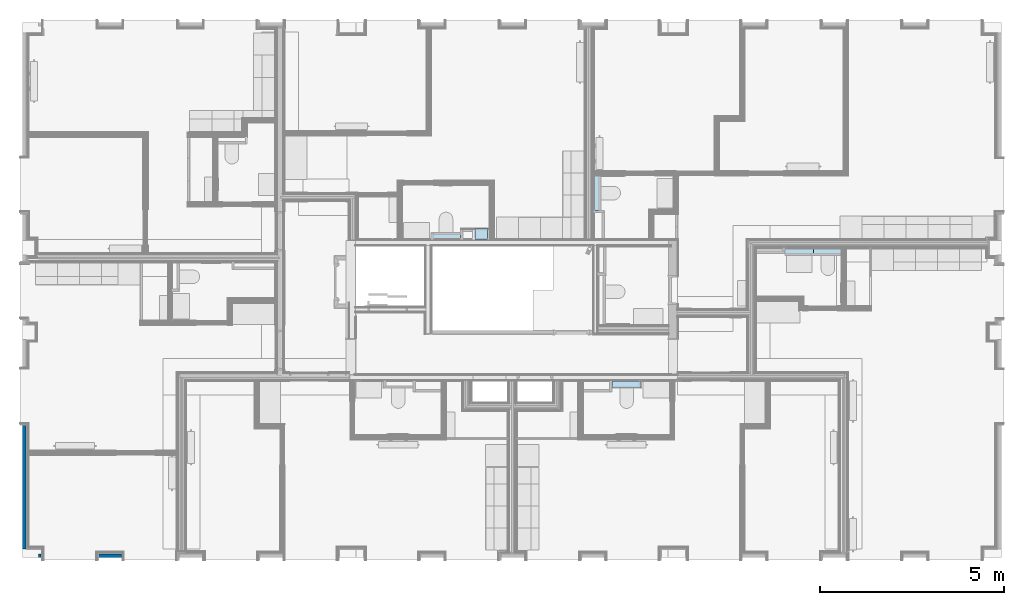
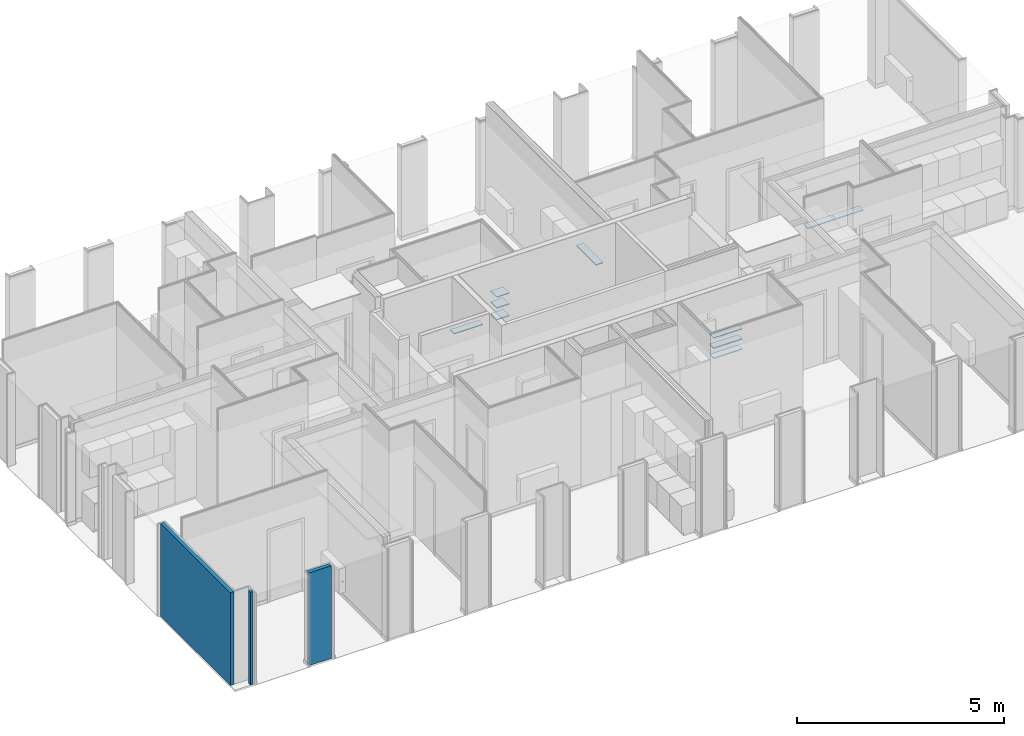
# One storey, part 2 of 65: 10 slabs, 3 walls.
"""IFC2X3 building model written with IfcOpenShell, lengths in metres."""

from ifc_helpers import new_model, entity, si_unit, converted_unit, derived_unit, money_unit, direction, frame, frame_2d, origin_with_axes, place, context, subcontext, project, spatial, rectangle, extrude, faceted_brep, material, layer, layer_set, layer_usage, type_object, element, save


model = new_model("IFC2X3")

# Units and contexts
model_context = context("Model", 3, precision=1e-05, world=origin_with_axes(), true_north=direction((0.0, 1.0)))
body_context = subcontext(model_context, "Body", "Model", "MODEL_VIEW", scale=1.0)
ifc_project = project(units=[si_unit("LENGTHUNIT", "METRE"), si_unit("AREAUNIT", "SQUARE_METRE"), si_unit("VOLUMEUNIT", "CUBIC_METRE"), si_unit("ABSORBEDDOSEUNIT", "GRAY"), si_unit("AMOUNTOFSUBSTANCEUNIT", "MOLE"), si_unit("DOSEEQUIVALENTUNIT", "SIEVERT"), si_unit("ELECTRICCAPACITANCEUNIT", "FARAD"), si_unit("ELECTRICCHARGEUNIT", "COULOMB"), si_unit("ELECTRICCONDUCTANCEUNIT", "SIEMENS"), si_unit("ELECTRICCURRENTUNIT", "AMPERE"), si_unit("ELECTRICRESISTANCEUNIT", "OHM"), si_unit("ELECTRICVOLTAGEUNIT", "VOLT"), si_unit("ENERGYUNIT", "JOULE"), si_unit("FORCEUNIT", "NEWTON"), si_unit("FREQUENCYUNIT", "HERTZ"), si_unit("ILLUMINANCEUNIT", "LUX"), si_unit("INDUCTANCEUNIT", "HENRY"), si_unit("LUMINOUSFLUXUNIT", "LUMEN"), si_unit("LUMINOUSINTENSITYUNIT", "CANDELA"), si_unit("MAGNETICFLUXDENSITYUNIT", "TESLA"), si_unit("MAGNETICFLUXUNIT", "WEBER"), si_unit("MASSUNIT", "GRAM"), converted_unit("PLANEANGLEUNIT", "degree", entity("IfcReal", 0.0174532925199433), si_unit("PLANEANGLEUNIT", "RADIAN"), dimensions=[0, 0, 0, 0, 0, 0, 0]), si_unit("POWERUNIT", "WATT"), si_unit("PRESSUREUNIT", "PASCAL"), si_unit("RADIOACTIVITYUNIT", "BECQUEREL"), si_unit("SOLIDANGLEUNIT", "STERADIAN"), si_unit("THERMODYNAMICTEMPERATUREUNIT", "KELVIN"), si_unit("TIMEUNIT", "SECOND"), derived_unit("ACCELERATIONUNIT", [(si_unit("LENGTHUNIT", "METRE"), 1), (si_unit("TIMEUNIT", "SECOND"), -2)]), derived_unit("ANGULARVELOCITYUNIT", [(converted_unit("PLANEANGLEUNIT", "degree", entity("IfcReal", 0.0174532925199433), si_unit("PLANEANGLEUNIT", "RADIAN"), dimensions=[0, 0, 0, 0, 0, 0, 0]), 1), (si_unit("TIMEUNIT", "SECOND"), -1)]), derived_unit("CURVATUREUNIT", [(converted_unit("PLANEANGLEUNIT", "degree", entity("IfcReal", 0.0174532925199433), si_unit("PLANEANGLEUNIT", "RADIAN"), dimensions=[0, 0, 0, 0, 0, 0, 0]), 1), (si_unit("LENGTHUNIT", "METRE"), -1)]), derived_unit("DYNAMICVISCOSITYUNIT", [(si_unit("PRESSUREUNIT", "PASCAL"), 1), (si_unit("TIMEUNIT", "SECOND"), 1)]), derived_unit("HEATFLUXDENSITYUNIT", [(si_unit("POWERUNIT", "WATT"), 1), (si_unit("LENGTHUNIT", "METRE"), -2)]), derived_unit("HEATINGVALUEUNIT", [(si_unit("ENERGYUNIT", "JOULE"), 1), (si_unit("MASSUNIT", "GRAM"), -1)]), derived_unit("INTEGERCOUNTRATEUNIT", [(si_unit("TIMEUNIT", "SECOND"), -1)]), derived_unit("IONCONCENTRATIONUNIT", [(si_unit("MASSUNIT", "GRAM"), 1), (si_unit("VOLUMEUNIT", "CUBIC_METRE"), -1)]), derived_unit("ISOTHERMALMOISTURECAPACITYUNIT", [(si_unit("VOLUMEUNIT", "CUBIC_METRE"), 1), (si_unit("MASSUNIT", "GRAM"), -1)]), derived_unit("KINEMATICVISCOSITYUNIT", [(si_unit("AREAUNIT", "SQUARE_METRE"), 1), (si_unit("TIMEUNIT", "SECOND"), -1)]), derived_unit("LINEARFORCEUNIT", [(si_unit("FORCEUNIT", "NEWTON"), 1), (si_unit("LENGTHUNIT", "METRE"), -1)]), derived_unit("LINEARMOMENTUNIT", [(si_unit("FORCEUNIT", "NEWTON"), 1), (si_unit("LENGTHUNIT", "METRE"), -1)]), derived_unit("LINEARSTIFFNESSUNIT", [(si_unit("FORCEUNIT", "NEWTON"), 1), (si_unit("LENGTHUNIT", "METRE"), -1)]), derived_unit("LINEARVELOCITYUNIT", [(si_unit("LENGTHUNIT", "METRE"), 1), (si_unit("TIMEUNIT", "SECOND"), -1)]), derived_unit("LUMINOUSINTENSITYDISTRIBUTIONUNIT", [(si_unit("LUMINOUSINTENSITYUNIT", "CANDELA"), 1), (si_unit("LUMINOUSFLUXUNIT", "LUMEN"), -1)]), derived_unit("MASSDENSITYUNIT", [(si_unit("MASSUNIT", "GRAM"), 1), (si_unit("VOLUMEUNIT", "CUBIC_METRE"), -1)]), derived_unit("MASSFLOWRATEUNIT", [(si_unit("MASSUNIT", "GRAM"), 1), (si_unit("TIMEUNIT", "SECOND"), -1)]), derived_unit("MASSPERLENGTHUNIT", [(si_unit("MASSUNIT", "GRAM"), 1), (si_unit("LENGTHUNIT", "METRE"), -1)]), derived_unit("MODULUSOFELASTICITYUNIT", [(si_unit("FORCEUNIT", "NEWTON"), 1), (si_unit("AREAUNIT", "SQUARE_METRE"), -1)]), derived_unit("MODULUSOFLINEARSUBGRADEREACTIONUNIT", [(si_unit("FORCEUNIT", "NEWTON"), 1), (si_unit("LENGTHUNIT", "METRE"), -2)]), derived_unit("MODULUSOFROTATIONALSUBGRADEREACTIONUNIT", [(si_unit("FORCEUNIT", "NEWTON"), 1), (si_unit("LENGTHUNIT", "METRE"), 1)]), derived_unit("MODULUSOFSUBGRADEREACTIONUNIT", [(si_unit("FORCEUNIT", "NEWTON"), 1), (si_unit("VOLUMEUNIT", "CUBIC_METRE"), -1)]), derived_unit("MOISTUREDIFFUSIVITYUNIT", [(si_unit("VOLUMEUNIT", "CUBIC_METRE"), 1), (si_unit("TIMEUNIT", "SECOND"), -1)]), derived_unit("MOLECULARWEIGHTUNIT", [(si_unit("MASSUNIT", "GRAM"), 1), (si_unit("AMOUNTOFSUBSTANCEUNIT", "MOLE"), -1)]), derived_unit("PLANARFORCEUNIT", [(si_unit("FORCEUNIT", "NEWTON"), 1), (si_unit("LENGTHUNIT", "METRE"), -2)]), derived_unit("ROTATIONALFREQUENCYUNIT", [(si_unit("TIMEUNIT", "SECOND"), -1)]), derived_unit("ROTATIONALMASSUNIT", [(si_unit("MASSUNIT", "GRAM"), 1), (si_unit("LENGTHUNIT", "METRE"), 2)]), derived_unit("ROTATIONALSTIFFNESSUNIT", [(si_unit("FORCEUNIT", "NEWTON"), 1), (si_unit("LENGTHUNIT", "METRE"), 1), (converted_unit("PLANEANGLEUNIT", "degree", entity("IfcReal", 0.0174532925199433), si_unit("PLANEANGLEUNIT", "RADIAN"), dimensions=[0, 0, 0, 0, 0, 0, 0]), -1)]), derived_unit("SECTIONAREAINTEGRALUNIT", [(si_unit("LENGTHUNIT", "METRE"), 5)]), derived_unit("SECTIONMODULUSUNIT", [(si_unit("LENGTHUNIT", "METRE"), 3)]), derived_unit("SHEARMODULUSUNIT", [(si_unit("FORCEUNIT", "NEWTON"), 1), (si_unit("AREAUNIT", "SQUARE_METRE"), -1)]), derived_unit("SOUNDPOWERUNIT", [(si_unit("ENERGYUNIT", "JOULE"), 1), (si_unit("TIMEUNIT", "SECOND"), -1)]), derived_unit("SPECIFICHEATCAPACITYUNIT", [(si_unit("FORCEUNIT", "NEWTON"), 1), (si_unit("MASSUNIT", "GRAM"), -1), (si_unit("THERMODYNAMICTEMPERATUREUNIT", "KELVIN"), -1)]), derived_unit("TEMPERATUREGRADIENTUNIT", [(si_unit("THERMODYNAMICTEMPERATUREUNIT", "KELVIN"), 1), (si_unit("LENGTHUNIT", "METRE"), -1)]), derived_unit("THERMALADMITTANCEUNIT", [(si_unit("POWERUNIT", "WATT"), 1), (si_unit("AREAUNIT", "SQUARE_METRE"), -1), (si_unit("THERMODYNAMICTEMPERATUREUNIT", "KELVIN"), -1)]), derived_unit("THERMALCONDUCTANCEUNIT", [(si_unit("POWERUNIT", "WATT"), 1), (si_unit("LENGTHUNIT", "METRE"), -1), (si_unit("THERMODYNAMICTEMPERATUREUNIT", "KELVIN"), -1)]), derived_unit("THERMALEXPANSIONCOEFFICIENTUNIT", [(si_unit("THERMODYNAMICTEMPERATUREUNIT", "KELVIN"), -1)]), derived_unit("THERMALRESISTANCEUNIT", [(si_unit("AREAUNIT", "SQUARE_METRE"), 1), (si_unit("POWERUNIT", "WATT"), -1)]), derived_unit("THERMALTRANSMITTANCEUNIT", [(si_unit("POWERUNIT", "WATT"), 1), (si_unit("AREAUNIT", "SQUARE_METRE"), -1), (si_unit("THERMODYNAMICTEMPERATUREUNIT", "KELVIN"), -1)]), derived_unit("TORQUEUNIT", [(si_unit("FORCEUNIT", "NEWTON"), 1), (si_unit("LENGTHUNIT", "METRE"), 1)]), derived_unit("VAPORPERMEABILITYUNIT", [(si_unit("MASSUNIT", "GRAM"), 1), (si_unit("TIMEUNIT", "SECOND"), -1)]), derived_unit("VOLUMETRICFLOWRATEUNIT", [(si_unit("VOLUMEUNIT", "CUBIC_METRE"), 1), (si_unit("TIMEUNIT", "SECOND"), -1)]), derived_unit("WARPINGCONSTANTUNIT", [(si_unit("LENGTHUNIT", "METRE"), 6)]), derived_unit("WARPINGMOMENTUNIT", [(si_unit("FORCEUNIT", "NEWTON"), 1), (si_unit("LENGTHUNIT", "METRE"), 2)]), money_unit("GBP")], contexts=[model_context])

# Site, building, storey
site_placement = place(None, origin_with_axes())
site = spatial("IfcSite", under=ifc_project, at=site_placement, Name="Site", CompositionType="ELEMENT")
building_placement = place(site_placement, origin_with_axes())
building = spatial("IfcBuilding", under=site, at=building_placement, Name="Building01", CompositionType="ELEMENT")
storey_placement = place(building_placement, frame((0.0, 0.0, 8.64), z_axis=(0.0, 0.0, 1.0), x_axis=(1.0, 0.0, 0.0)))
storey = spatial("IfcBuildingStorey", under=building, at=storey_placement, Name="2F", CompositionType="ELEMENT", Elevation=8.64)

# Slabs
ifc_material_1 = material(Name="A_BSUK_Ceramic_WallTiles")
slab_type = type_object("IfcSlabType", Name="A-FloorsSlabs A_BSUK_Slabs", PredefinedType="FLOOR")
for number, where, z_axis, x_axis, name in (
    (1, (17.0075, 4.779998, 1.375), (0.0, 0.0, 1.0), (1.0, 0.0, 0.0), "A-FloorsSlabs A_BSUK_Slabs"),
    (2, (17.0075, 4.779998, 1.675), (0.0, 0.0, 1.0), (1.0, 0.0, 0.0), "A-FloorsSlabs A_BSUK_Slabs"),
    (3, (17.0075, 4.779998, 1.975), (0.0, 0.0, 1.0), (1.0, 0.0, 0.0), "A-FloorsSlabs A_BSUK_Slabs"),
):
    element("IfcSlab", number, at=place(storey_placement, frame(where, z_axis=z_axis, x_axis=x_axis)), inside=storey, type_object=slab_type, material=ifc_material_1, Name=name, ObjectType="A-FloorsSlabs A_BSUK_Slabs", context=body_context, shape_type="Brep", body=[
        faceted_brep([(0.0, 0.200002, 0.0), (0.0, 0.200002, 0.025), (0.0, 0.0, 0.025), (0.0, 0.0, 0.0), (-0.8, 3e-06, 0.025), (-0.8, 3e-06, 0.0), (-0.799999, 0.200002, 0.025), (-0.799999, 0.200002, 0.0)], [[[0, 1, 2, 3]], [[3, 2, 4, 5]], [[5, 4, 6, 7]], [[7, 6, 1, 0]], [[1, 6, 4, 2]], [[3, 5, 7, 0]]]),
    ])
placement = place(storey_placement, frame((0.0, 0.0, -8.64), z_axis=(0.0, 0.0, 1.0), x_axis=(1.0, 0.0, 0.0)))
element("IfcSlab", 4, at=placement, inside=storey, type_object=slab_type, material=ifc_material_1, Name="A-FloorsSlabs A_BSUK_Slabs", ObjectType="CompoundSlabLeaf", context=body_context, shape_type="Brep", body=[
    faceted_brep([(12.088871, 9.02, 10.015), (12.088871, 9.02, 10.04), (12.088871, 8.82, 10.04), (12.088871, 8.82, 10.015), (11.288873, 9.019997, 10.015), (11.288873, 9.019997, 10.04), (11.288874, 8.82, 10.015), (11.288874, 8.82, 10.04)], [[[0, 1, 2, 3]], [[4, 5, 1, 0]], [[6, 7, 5, 4]], [[3, 2, 7, 6]], [[1, 5, 7, 2]], [[3, 6, 4, 0]]]),
])
element("IfcSlab", 5, at=placement, inside=storey, type_object=slab_type, material=ifc_material_1, Name="A-FloorsSlabs A_BSUK_Slabs", ObjectType="CompoundSlabLeaf", context=body_context, shape_type="Brep", body=[
    faceted_brep([(12.478585, 8.82, 10.015), (12.478585, 8.82, 10.04), (12.478585, 9.12, 10.04), (12.478585, 9.12, 10.015), (12.828585, 8.82, 10.015), (12.828585, 8.82, 10.04), (12.828585, 9.12, 10.015), (12.828585, 9.12, 10.04)], [[[0, 1, 2, 3]], [[4, 5, 1, 0]], [[6, 7, 5, 4]], [[3, 2, 7, 6]], [[1, 5, 7, 2]], [[3, 6, 4, 0]]]),
])
element("IfcSlab", 6, at=placement, inside=storey, type_object=slab_type, material=ifc_material_1, Name="A-FloorsSlabs A_BSUK_Slabs", ObjectType="CompoundSlabLeaf", context=body_context, shape_type="Brep", body=[
    faceted_brep([(12.478585, 8.82, 10.68), (12.478585, 8.82, 10.705), (12.478585, 9.12, 10.705), (12.478585, 9.12, 10.68), (12.828585, 8.82, 10.68), (12.828585, 8.82, 10.705), (12.828585, 9.12, 10.68), (12.828585, 9.12, 10.705)], [[[0, 1, 2, 3]], [[4, 5, 1, 0]], [[6, 7, 5, 4]], [[3, 2, 7, 6]], [[1, 5, 7, 2]], [[3, 6, 4, 0]]]),
])
element("IfcSlab", 7, at=placement, inside=storey, type_object=slab_type, material=ifc_material_1, Name="A-FloorsSlabs A_BSUK_Slabs", ObjectType="CompoundSlabLeaf", context=body_context, shape_type="Brep", body=[
    faceted_brep([(12.478585, 8.82, 10.359973), (12.478585, 8.82, 10.384973), (12.478585, 9.12, 10.384973), (12.478585, 9.12, 10.359973), (12.828585, 8.82, 10.359973), (12.828585, 8.82, 10.384973), (12.828585, 9.12, 10.359973), (12.828585, 9.12, 10.384973)], [[[0, 1, 2, 3]], [[4, 5, 1, 0]], [[6, 7, 5, 4]], [[3, 2, 7, 6]], [[1, 5, 7, 2]], [[3, 6, 4, 0]]]),
])
element("IfcSlab", 8, at=placement, inside=storey, type_object=slab_type, material=ifc_material_1, Name="A-FloorsSlabs A_BSUK_Slabs", ObjectType="CompoundSlabLeaf", context=body_context, shape_type="Brep", body=[
    faceted_brep([(15.908132, 9.62, 10.015), (15.908132, 9.62, 10.04), (15.708132, 9.62, 10.04), (15.708132, 9.62, 10.015), (15.908132, 10.57, 10.015), (15.908132, 10.57, 10.04), (15.708132, 10.57, 10.015), (15.708132, 10.57, 10.04)], [[[0, 1, 2, 3]], [[4, 5, 1, 0]], [[6, 7, 5, 4]], [[3, 2, 7, 6]], [[1, 5, 7, 2]], [[3, 6, 4, 0]]]),
])
element("IfcSlab", 9, at=placement, inside=storey, type_object=slab_type, material=ifc_material_1, Name="A-FloorsSlabs A_BSUK_Slabs", ObjectType="CompoundSlabLeaf", context=body_context, shape_type="Brep", body=[
    faceted_brep([(22.476661, 8.595, 10.015), (22.476661, 8.595, 10.04), (22.476661, 8.395001, 10.04), (22.476661, 8.395001, 10.015), (21.699661, 8.594999, 10.015), (21.699661, 8.594999, 10.04), (21.699661, 8.395003, 10.015), (21.699661, 8.395003, 10.04)], [[[0, 1, 2, 3]], [[4, 5, 1, 0]], [[6, 7, 5, 4]], [[3, 2, 7, 6]], [[1, 5, 7, 2]], [[3, 6, 4, 0]]]),
])
element("IfcSlab", 10, at=placement, inside=storey, type_object=slab_type, material=ifc_material_1, Name="A-FloorsSlabs A_BSUK_Slabs", ObjectType="CompoundSlabLeaf", context=body_context, shape_type="Brep", body=[
    faceted_brep([(21.699661, 8.595, 10.015), (21.699661, 8.595, 10.04), (21.699661, 8.395003, 10.04), (21.699661, 8.395003, 10.015), (20.922661, 8.595, 10.015), (20.922661, 8.595, 10.04), (20.922661, 8.394685, 10.015), (20.922661, 8.394685, 10.04)], [[[0, 1, 2, 3]], [[4, 5, 1, 0]], [[6, 7, 5, 4]], [[3, 2, 7, 6]], [[1, 5, 7, 2]], [[3, 6, 4, 0]]]),
])

# Walls
ifc_material_2 = material(Name="A_BSUK_WallsExternal_Block")
ifc_layer = layer(ifc_material_2, 0.1, ventilated=False)
ifc_layer_set = layer_set([ifc_layer])
ifc_layer_usage = layer_usage(ifc_layer_set, "AXIS2", "POSITIVE", 0.0)
wall_type = type_object("IfcWallType", Name="A-Walls-ExternalBlock", PredefinedType="NOTDEFINED")
wall_1_placement = place(storey_placement, frame((0.17, 3.77418, 0.0), z_axis=(0.0, 0.0, 1.0), x_axis=(0.0, -1.0, 0.0)))
element("IfcWallStandardCase", 11, at=wall_1_placement, inside=storey, type_object=wall_type, material=ifc_layer_usage, Name="A-Walls-ExternalBlock", ObjectType="A-Walls-ExternalBlock", context=body_context, shape_type="SweptSolid", body=[
    extrude(rectangle(XDim=3.37418, YDim=0.1, at=frame_2d((1.68709, 0.05), x_axis=(1.0, 0.0))), origin_with_axes(), (0.0, 0.0, 1.0), 2.74),
])
wall_2_placement = place(storey_placement, frame((0.677, 0.27, 0.0), z_axis=(0.0, 0.0, 1.0), x_axis=(-1.0, 0.0, 0.0)))
element("IfcWallStandardCase", 12, at=wall_2_placement, inside=storey, type_object=wall_type, material=ifc_layer_usage, Name="A-Walls-ExternalBlock", ObjectType="A-Walls-ExternalBlock", context=body_context, shape_type="SweptSolid", body=[
    extrude(rectangle(XDim=0.077, YDim=0.1, at=frame_2d((0.0385, 0.05), x_axis=(1.0, 0.0))), origin_with_axes(), (0.0, 0.0, 1.0), 2.74),
])
wall_3_placement = place(storey_placement, frame((2.867, 0.27, 0.0), z_axis=(0.0, 0.0, 1.0), x_axis=(-1.0, 0.0, 0.0)))
element("IfcWallStandardCase", 13, at=wall_3_placement, inside=storey, type_object=wall_type, material=ifc_layer_usage, Name="A-Walls-ExternalBlock", ObjectType="A-Walls-ExternalBlock", context=body_context, shape_type="SweptSolid", body=[
    extrude(rectangle(XDim=0.624, YDim=0.1, at=frame_2d((0.312, 0.05), x_axis=(-1.0, 0.0))), origin_with_axes(), (0.0, 0.0, 1.0), 2.74),
])

save(model, "model.ifc")
